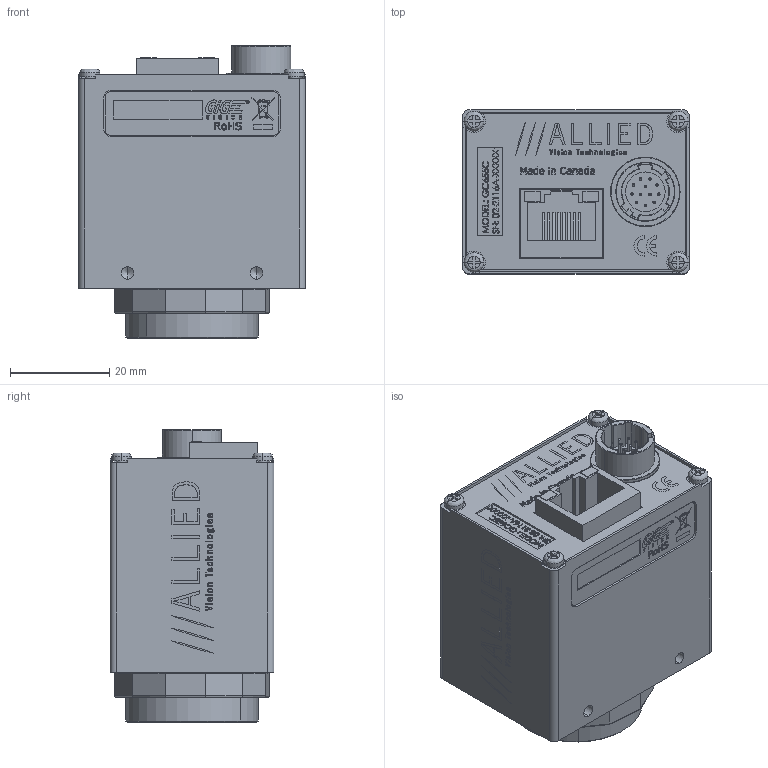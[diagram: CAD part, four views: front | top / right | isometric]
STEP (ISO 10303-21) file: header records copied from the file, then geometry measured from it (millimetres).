
FILE_DESCRIPTION (( 'STEP AP214' ), '1' );
FILE_NAME ('GC655C.STEP', '2013-07-31T17:41:58', ( '' ), ( '' ), 'SwSTEP 2.0', 'SolidWorks 2013', '' );
FILE_SCHEMA (( 'AUTOMOTIVE_DESIGN' ));
Length unit declared in the file: millimetre
Products named in the file (23): 100097A-IR FILTER ASSEMBLY 0.75 INCH; 440002-IR CUT FILTER 22MM DIA; 110054AB-IR FILTER SUPPORT; 200047A-A GC INTERFACE PCB ASSY; 260033-AMPHENOL RJHS-3381; 200037A-EC655 COLOR PCB ASSY; 220072-SONY ICX414AQ; Sony ICX414 WINDOW; Sony ICX414 BODY; 740032B-GC MAIN LABEL; 110003AC-CV CMOUNT RING; 110031A-B EC-CCD LOCKING RING; 740123A-GC MAC LABEL; 140017-SCREW PAN M2x4 SS; 740040A-A GC655C LABEL PRINT; 110045B-EC-CCD DUST SHIELD GASKET; 110042C GC-CCD FRONT_Finished with logo; 140023-SCREW SKT CAP M2x10 SS; GC655C; 110043A GC BACK PLATE; 110043A GC BACK PLATE - WO HW; 260034-HIROSE HR10A-10R-12PB; 140013-washer spring lock M2
Assembly tree (27 placements, depth 4):
  GC655C
    110045B-EC-CCD DUST SHIELD GASKET
    140017-SCREW PAN M2x4 SS  x4
    110031A-B EC-CCD LOCKING RING
    110003AC-CV CMOUNT RING
    740032B-GC MAIN LABEL
    200037A-EC655 COLOR PCB ASSY
      220072-SONY ICX414AQ
        Sony ICX414 BODY
        Sony ICX414 WINDOW
    200047A-A GC INTERFACE PCB ASSY
      260033-AMPHENOL RJHS-3381
    100097A-IR FILTER ASSEMBLY 0.75 INCH
      110054AB-IR FILTER SUPPORT
      440002-IR CUT FILTER 22MM DIA
    140013-washer spring lock M2  x2
    260034-HIROSE HR10A-10R-12PB
    110043A GC BACK PLATE
      110043A GC BACK PLATE - WO HW
    140023-SCREW SKT CAP M2x10 SS  x2
    110042C GC-CCD FRONT_Finished with logo
    740040A-A GC655C LABEL PRINT
    740123A-GC MAC LABEL
Bounding box: 45.72 x 33.02 x 58.96 mm (x, y, z)
Volume: 23109.8 mm3; surface area: 33591.1 mm2
Topology: 22 solids, 22 shells, 3241 faces, 8528 edges, 5542 vertices
Faces by surface type: plane 1849, bspline 910, cylinder 288, cone 194
Entity records: 163714 total; most frequent: CARTESIAN_POINT 56778, ORIENTED_EDGE 16376, DIRECTION 11688, EDGE_CURVE 8188, VECTOR 5638, LINE 5638, VERTEX_POINT 5372, EDGE_LOOP 3468
